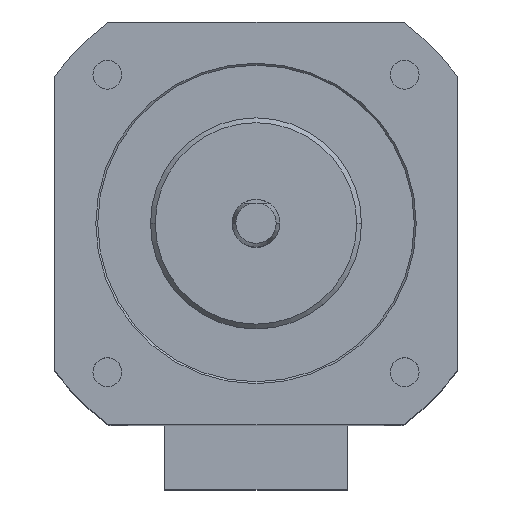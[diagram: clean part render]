
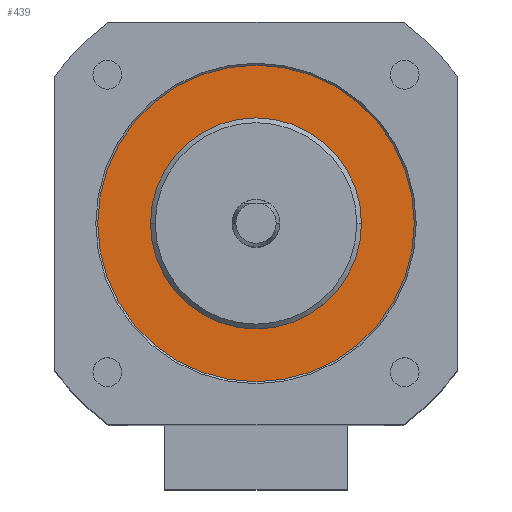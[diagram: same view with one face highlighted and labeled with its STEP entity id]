
A CAD part, top view. The second image highlights one B-rep face of the part: STEP entity #439.
In plain terms, the highlighted planar face has unit normal (0, 0, 1).
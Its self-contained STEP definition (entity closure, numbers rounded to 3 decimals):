
#44 = CIRCLE ( 'NONE', #1492, 16.5 ) ;
#46 = DIRECTION ( 'NONE',  ( 0., 0., 1. ) ) ;
#81 = DIRECTION ( 'NONE',  ( 0., 0., 1. ) ) ;
#191 = EDGE_CURVE ( 'NONE', #1557, #1657, #44, .T. ) ;
#226 = CARTESIAN_POINT ( 'NONE',  ( 0., 0., -2.2 ) ) ;
#241 = DIRECTION ( 'NONE',  ( 0., 0., 1. ) ) ;
#277 = CARTESIAN_POINT ( 'NONE',  ( 0., 0., -2.2 ) ) ;
#308 = CARTESIAN_POINT ( 'NONE',  ( 0., 0., -2.2 ) ) ;
#315 = EDGE_CURVE ( 'NONE', #888, #513, #1971, .T. ) ;
#320 = EDGE_LOOP ( 'NONE', ( #1575, #1969 ) ) ;
#397 = EDGE_CURVE ( 'NONE', #1657, #1557, #787, .T. ) ;
#439 = ADVANCED_FACE ( 'NONE', ( #719, #628 ), #726, .T. ) ;
#483 = CARTESIAN_POINT ( 'NONE',  ( 0., 0., -2.2 ) ) ;
#513 = VERTEX_POINT ( 'NONE', #1313 ) ;
#628 = FACE_OUTER_BOUND ( 'NONE', #1746, .T. ) ;
#654 = AXIS2_PLACEMENT_3D ( 'NONE', #483, #241, #2065 ) ;
#677 = CARTESIAN_POINT ( 'NONE',  ( -11., 0., -2.2 ) ) ;
#719 = FACE_BOUND ( 'NONE', #320, .T. ) ;
#726 = PLANE ( 'NONE',  #654 ) ;
#758 = EDGE_CURVE ( 'NONE', #513, #888, #1987, .T. ) ;
#787 = CIRCLE ( 'NONE', #1107, 16.5 ) ;
#888 = VERTEX_POINT ( 'NONE', #677 ) ;
#1107 = AXIS2_PLACEMENT_3D ( 'NONE', #226, #2053, #1860 ) ;
#1239 = ORIENTED_EDGE ( 'NONE', *, *, #397, .T. ) ;
#1306 = CARTESIAN_POINT ( 'NONE',  ( 0., 0., -2.2 ) ) ;
#1313 = CARTESIAN_POINT ( 'NONE',  ( 11., 0., -2.2 ) ) ;
#1352 = AXIS2_PLACEMENT_3D ( 'NONE', #308, #81, #1928 ) ;
#1492 = AXIS2_PLACEMENT_3D ( 'NONE', #1306, #1833, #1642 ) ;
#1557 = VERTEX_POINT ( 'NONE', #1847 ) ;
#1575 = ORIENTED_EDGE ( 'NONE', *, *, #758, .F. ) ;
#1642 = DIRECTION ( 'NONE',  ( 1., 0., 0. ) ) ;
#1657 = VERTEX_POINT ( 'NONE', #1804 ) ;
#1746 = EDGE_LOOP ( 'NONE', ( #1239, #2010 ) ) ;
#1804 = CARTESIAN_POINT ( 'NONE',  ( 16.5, 0., -2.2 ) ) ;
#1833 = DIRECTION ( 'NONE',  ( 0., 0., 1. ) ) ;
#1836 = AXIS2_PLACEMENT_3D ( 'NONE', #277, #46, #1900 ) ;
#1847 = CARTESIAN_POINT ( 'NONE',  ( -16.5, 0., -2.2 ) ) ;
#1860 = DIRECTION ( 'NONE',  ( 1., 0., 0. ) ) ;
#1900 = DIRECTION ( 'NONE',  ( 1., 0., 0. ) ) ;
#1928 = DIRECTION ( 'NONE',  ( 1., 0., 0. ) ) ;
#1969 = ORIENTED_EDGE ( 'NONE', *, *, #315, .F. ) ;
#1971 = CIRCLE ( 'NONE', #1352, 11. ) ;
#1987 = CIRCLE ( 'NONE', #1836, 11. ) ;
#2010 = ORIENTED_EDGE ( 'NONE', *, *, #191, .T. ) ;
#2053 = DIRECTION ( 'NONE',  ( 0., 0., 1. ) ) ;
#2065 = DIRECTION ( 'NONE',  ( 1., 0., 0. ) ) ;
